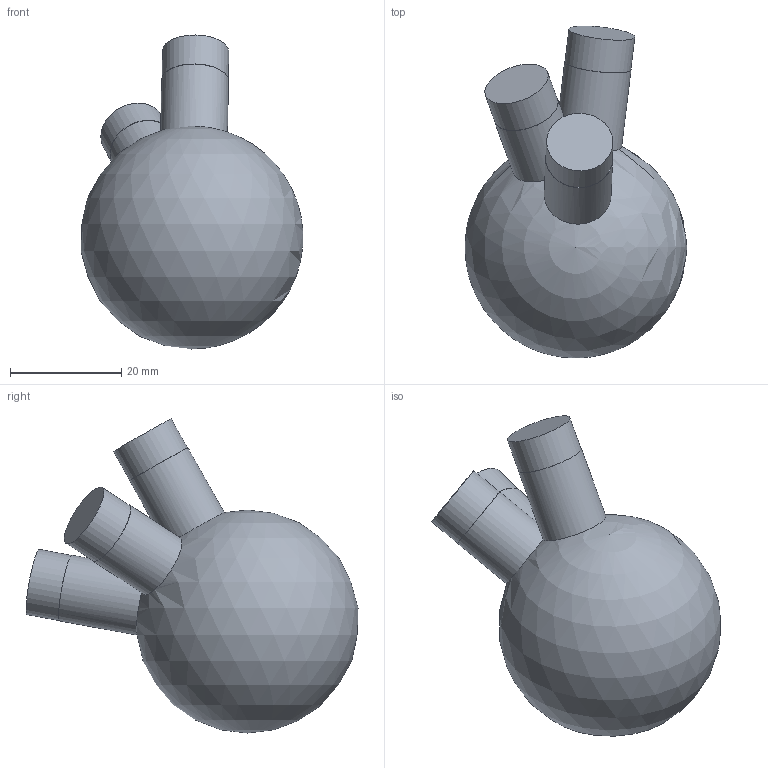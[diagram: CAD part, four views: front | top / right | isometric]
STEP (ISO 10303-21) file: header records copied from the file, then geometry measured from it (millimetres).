
FILE_DESCRIPTION(('Open CASCADE Model'),'2;1');
FILE_NAME('Open CASCADE Shape Model','2026-10-21T12:47:57',('Author'),( 'Open CASCADE'),'Open CASCADE STEP processor 7.9','Open CASCADE 7.9' ,'Unknown');
FILE_SCHEMA(('AUTOMOTIVE_DESIGN { 1 0 10303 214 1 1 1 1 }'));
Length unit declared in the file: millimetre
Products named in the file (1): Open CASCADE STEP translator 7.9 152
Bounding box: 39.83 x 59.58 x 56.35 mm (x, y, z)
Volume: 39768.5 mm3; surface area: 7151.1 mm2
Topology: 1 solids, 1 shells, 13 faces, 29 edges, 20 vertices
Faces by surface type: cylinder 6, plane 6, sphere 1
Full cylindrical faces by diameter (mm): 11.9 x3, 12 x3
Entity records: 1180 total; most frequent: CARTESIAN_POINT 613, DIRECTION 111, ORIENTED_EDGE 52, PCURVE 52, DEFINITIONAL_REPRESENTATION 52, AXIS2_PLACEMENT_3D 34, LINE 34, VECTOR 34
